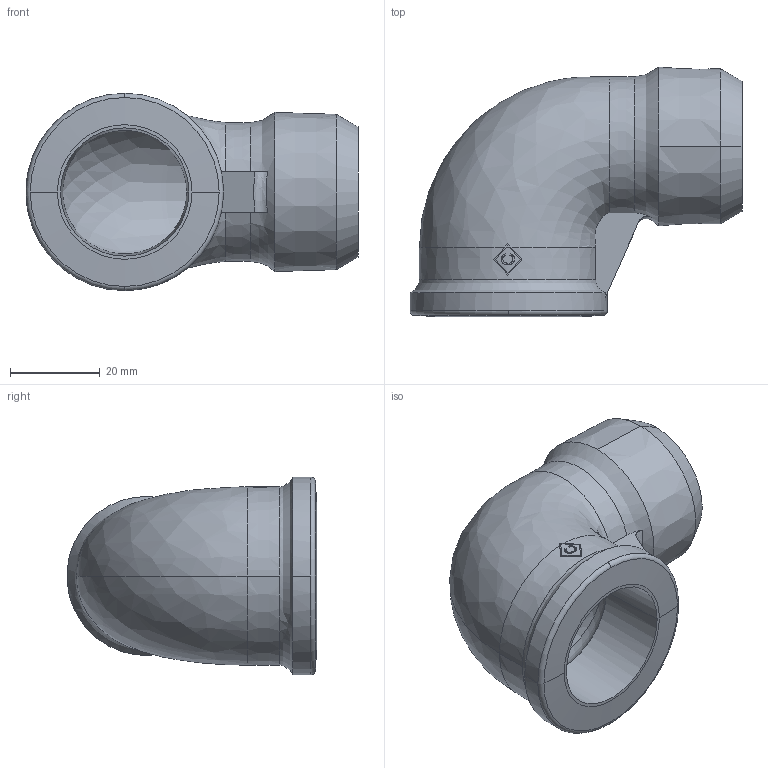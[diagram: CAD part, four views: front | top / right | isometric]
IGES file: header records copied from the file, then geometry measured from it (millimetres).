
Global section: file name: No Iges File Name specified; native system: AutoDesk Inventor R12.0; preprocessor: AutoDesk Inventor Iges Exporter R12.0; date: 20090915.165740; units: millimetre
Bounding box: 74 x 55.67 x 44 mm (x, y, z)
Volume: 36447.9 mm3; surface area: 17525.4 mm2
Topology: 1 solids, 1 shells, 52 faces, 178 edges, 128 vertices
Faces by surface type: bspline 26, plane 14, cone 6, cylinder 2, torus 2, revolution 2
